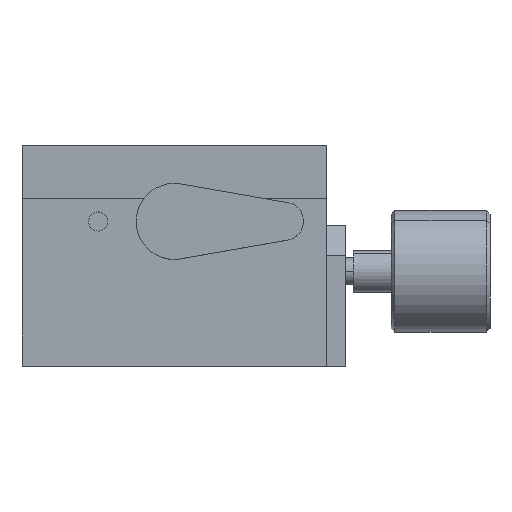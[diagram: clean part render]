
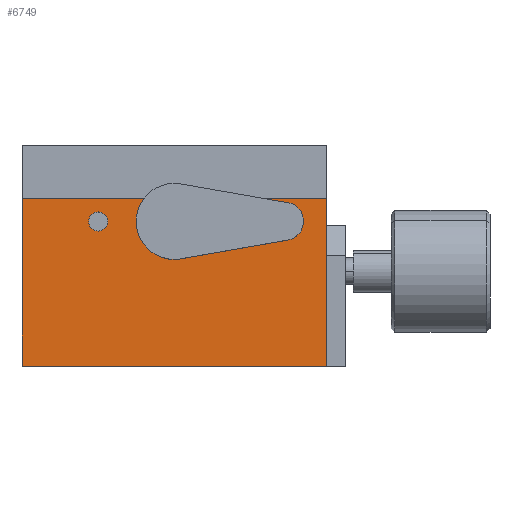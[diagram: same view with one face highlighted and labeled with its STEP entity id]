
A CAD part, top view. The second image highlights one B-rep face of the part: STEP entity #6749.
In plain terms, the highlighted planar face has unit normal (0, 0, 1).
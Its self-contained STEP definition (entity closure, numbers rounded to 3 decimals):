
#48 = DIRECTION ( 'NONE',  ( 0., -1., 0. ) ) ;
#115 = DIRECTION ( 'NONE',  ( -1., 0., 0. ) ) ;
#128 = VERTEX_POINT ( 'NONE', #604 ) ;
#133 = CARTESIAN_POINT ( 'NONE',  ( -1.65, 13., 20. ) ) ;
#176 = ORIENTED_EDGE ( 'NONE', *, *, #3415, .F. ) ;
#359 = VERTEX_POINT ( 'NONE', #1309 ) ;
#449 = AXIS2_PLACEMENT_3D ( 'NONE', #687, #1243, #2885 ) ;
#460 = EDGE_CURVE ( 'NONE', #4179, #5944, #6868, .T. ) ;
#604 = CARTESIAN_POINT ( 'NONE',  ( -11.25, 13., 20. ) ) ;
#612 = EDGE_LOOP ( 'NONE', ( #2465, #2597 ) ) ;
#684 = ORIENTED_EDGE ( 'NONE', *, *, #3136, .F. ) ;
#687 = CARTESIAN_POINT ( 'NONE',  ( 10., 13., 20. ) ) ;
#845 = CARTESIAN_POINT ( 'NONE',  ( 20., 16., 20. ) ) ;
#899 = EDGE_CURVE ( 'NONE', #128, #3610, #4494, .T. ) ;
#911 = CARTESIAN_POINT ( 'NONE',  ( 0., 13., 20. ) ) ;
#969 = AXIS2_PLACEMENT_3D ( 'NONE', #911, #3067, #7033 ) ;
#1000 = DIRECTION ( 'NONE',  ( 0., 0., 1. ) ) ;
#1052 = VERTEX_POINT ( 'NONE', #1738 ) ;
#1070 = CARTESIAN_POINT ( 'NONE',  ( 20., -6., 20. ) ) ;
#1085 = EDGE_CURVE ( 'NONE', #2452, #1052, #1108, .T. ) ;
#1108 = LINE ( 'NONE', #6748, #3702 ) ;
#1243 = DIRECTION ( 'NONE',  ( 0., 0., 1. ) ) ;
#1270 = CARTESIAN_POINT ( 'NONE',  ( -10., 13., 20. ) ) ;
#1309 = CARTESIAN_POINT ( 'NONE',  ( 8.75, 13., 20. ) ) ;
#1327 = ORIENTED_EDGE ( 'NONE', *, *, #460, .F. ) ;
#1329 = CARTESIAN_POINT ( 'NONE',  ( -20., 16., 20. ) ) ;
#1342 = LINE ( 'NONE', #6970, #2975 ) ;
#1406 = EDGE_CURVE ( 'NONE', #5685, #359, #2152, .T. ) ;
#1738 = CARTESIAN_POINT ( 'NONE',  ( -20., -6., 20. ) ) ;
#1779 = CARTESIAN_POINT ( 'NONE',  ( 20., 0., 20. ) ) ;
#2016 = FACE_OUTER_BOUND ( 'NONE', #2411, .T. ) ;
#2152 = CIRCLE ( 'NONE', #4557, 1.25 ) ;
#2409 = DIRECTION ( 'NONE',  ( 0., 0., -1. ) ) ;
#2411 = EDGE_LOOP ( 'NONE', ( #5904, #5173, #684, #2727 ) ) ;
#2452 = VERTEX_POINT ( 'NONE', #1329 ) ;
#2465 = ORIENTED_EDGE ( 'NONE', *, *, #3048, .F. ) ;
#2597 = ORIENTED_EDGE ( 'NONE', *, *, #899, .F. ) ;
#2727 = ORIENTED_EDGE ( 'NONE', *, *, #5072, .T. ) ;
#2772 = CARTESIAN_POINT ( 'NONE',  ( 11.25, 13., 20. ) ) ;
#2885 = DIRECTION ( 'NONE',  ( 1., 0., 0. ) ) ;
#2975 = VECTOR ( 'NONE', #4700, 1000. ) ;
#3048 = EDGE_CURVE ( 'NONE', #3610, #128, #4547, .T. ) ;
#3067 = DIRECTION ( 'NONE',  ( 0., 0., 1. ) ) ;
#3126 = AXIS2_PLACEMENT_3D ( 'NONE', #6261, #6743, #6210 ) ;
#3136 = EDGE_CURVE ( 'NONE', #3182, #6998, #1342, .T. ) ;
#3182 = VERTEX_POINT ( 'NONE', #845 ) ;
#3188 = DIRECTION ( 'NONE',  ( 1., 0., 0. ) ) ;
#3415 = EDGE_CURVE ( 'NONE', #5944, #4179, #3943, .T. ) ;
#3460 = PLANE ( 'NONE',  #5432 ) ;
#3472 = FACE_BOUND ( 'NONE', #612, .T. ) ;
#3577 = VECTOR ( 'NONE', #4311, 1000. ) ;
#3610 = VERTEX_POINT ( 'NONE', #4656 ) ;
#3702 = VECTOR ( 'NONE', #48, 1000. ) ;
#3730 = DIRECTION ( 'NONE',  ( -1., 0., 0. ) ) ;
#3815 = CARTESIAN_POINT ( 'NONE',  ( 10., 13., 20. ) ) ;
#3943 = CIRCLE ( 'NONE', #3126, 1.65 ) ;
#3952 = ORIENTED_EDGE ( 'NONE', *, *, #5163, .F. ) ;
#4164 = AXIS2_PLACEMENT_3D ( 'NONE', #4321, #1000, #3188 ) ;
#4179 = VERTEX_POINT ( 'NONE', #133 ) ;
#4311 = DIRECTION ( 'NONE',  ( -1., 0., 0. ) ) ;
#4321 = CARTESIAN_POINT ( 'NONE',  ( -10., 13., 20. ) ) ;
#4327 = ORIENTED_EDGE ( 'NONE', *, *, #1406, .F. ) ;
#4494 = CIRCLE ( 'NONE', #4164, 1.25 ) ;
#4547 = CIRCLE ( 'NONE', #5375, 1.25 ) ;
#4557 = AXIS2_PLACEMENT_3D ( 'NONE', #3815, #5966, #5451 ) ;
#4656 = CARTESIAN_POINT ( 'NONE',  ( -8.75, 13., 20. ) ) ;
#4700 = DIRECTION ( 'NONE',  ( 0., -1., 0. ) ) ;
#4712 = CARTESIAN_POINT ( 'NONE',  ( 1.65, 13., 20. ) ) ;
#4974 = FACE_BOUND ( 'NONE', #5220, .T. ) ;
#4988 = LINE ( 'NONE', #6598, #3577 ) ;
#5049 = FACE_BOUND ( 'NONE', #6346, .T. ) ;
#5072 = EDGE_CURVE ( 'NONE', #3182, #2452, #4988, .T. ) ;
#5163 = EDGE_CURVE ( 'NONE', #359, #5685, #6828, .T. ) ;
#5173 = ORIENTED_EDGE ( 'NONE', *, *, #5397, .F. ) ;
#5220 = EDGE_LOOP ( 'NONE', ( #4327, #3952 ) ) ;
#5375 = AXIS2_PLACEMENT_3D ( 'NONE', #1270, #5730, #6300 ) ;
#5397 = EDGE_CURVE ( 'NONE', #6998, #1052, #6996, .T. ) ;
#5432 = AXIS2_PLACEMENT_3D ( 'NONE', #1779, #2409, #115 ) ;
#5451 = DIRECTION ( 'NONE',  ( 1., 0., 0. ) ) ;
#5595 = VECTOR ( 'NONE', #3730, 1000. ) ;
#5685 = VERTEX_POINT ( 'NONE', #2772 ) ;
#5730 = DIRECTION ( 'NONE',  ( 0., 0., 1. ) ) ;
#5904 = ORIENTED_EDGE ( 'NONE', *, *, #1085, .T. ) ;
#5944 = VERTEX_POINT ( 'NONE', #4712 ) ;
#5966 = DIRECTION ( 'NONE',  ( 0., 0., 1. ) ) ;
#6210 = DIRECTION ( 'NONE',  ( 1., 0., 0. ) ) ;
#6261 = CARTESIAN_POINT ( 'NONE',  ( 0., 13., 20. ) ) ;
#6300 = DIRECTION ( 'NONE',  ( 1., 0., 0. ) ) ;
#6346 = EDGE_LOOP ( 'NONE', ( #176, #1327 ) ) ;
#6598 = CARTESIAN_POINT ( 'NONE',  ( 20., 16., 20. ) ) ;
#6743 = DIRECTION ( 'NONE',  ( 0., 0., 1. ) ) ;
#6748 = CARTESIAN_POINT ( 'NONE',  ( -20., 0., 20. ) ) ;
#6749 = ADVANCED_FACE ( 'NONE', ( #5049, #4974, #3472, #2016 ), #3460, .F. ) ;
#6828 = CIRCLE ( 'NONE', #449, 1.25 ) ;
#6868 = CIRCLE ( 'NONE', #969, 1.65 ) ;
#6970 = CARTESIAN_POINT ( 'NONE',  ( 20., 0., 20. ) ) ;
#6996 = LINE ( 'NONE', #7092, #5595 ) ;
#6998 = VERTEX_POINT ( 'NONE', #1070 ) ;
#7033 = DIRECTION ( 'NONE',  ( 1., 0., 0. ) ) ;
#7092 = CARTESIAN_POINT ( 'NONE',  ( 20., -6., 20. ) ) ;
